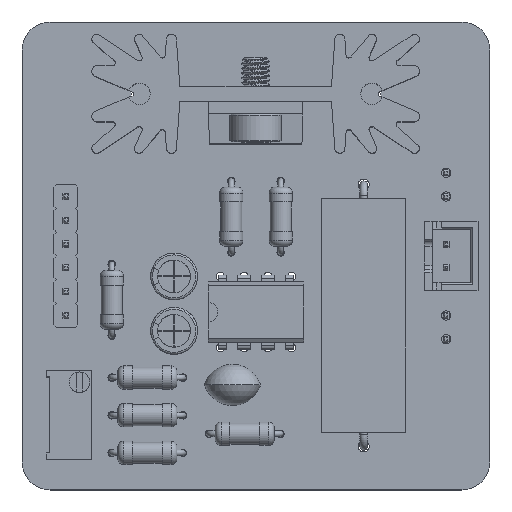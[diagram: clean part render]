
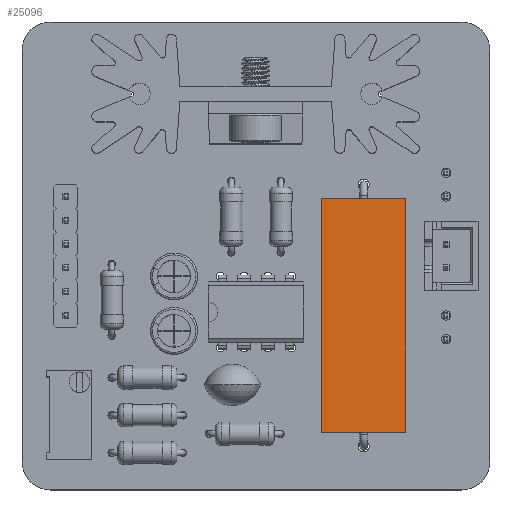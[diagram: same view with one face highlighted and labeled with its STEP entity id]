
A CAD part, top view. The second image highlights one B-rep face of the part: STEP entity #25096.
In plain terms, the highlighted planar face has unit normal (0, 0, 1).
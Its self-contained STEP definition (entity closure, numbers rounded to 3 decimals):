
#24982 = EDGE_CURVE('',#24983,#24985,#24987,.T.);
#24983 = VERTEX_POINT('',#24984);
#24984 = CARTESIAN_POINT('',(1.47,-4.5,9.));
#24985 = VERTEX_POINT('',#24986);
#24986 = CARTESIAN_POINT('',(26.47,-4.5,9.));
#24987 = LINE('',#24988,#24989);
#24988 = CARTESIAN_POINT('',(1.47,-4.5,9.));
#24989 = VECTOR('',#24990,1.);
#24990 = DIRECTION('',(1.,0.,0.));
#25015 = VERTEX_POINT('',#25016);
#25016 = CARTESIAN_POINT('',(26.47,4.5,9.));
#25022 = EDGE_CURVE('',#25023,#25015,#25025,.T.);
#25023 = VERTEX_POINT('',#25024);
#25024 = CARTESIAN_POINT('',(1.47,4.5,9.));
#25025 = LINE('',#25026,#25027);
#25026 = CARTESIAN_POINT('',(1.47,4.5,9.));
#25027 = VECTOR('',#25028,1.);
#25028 = DIRECTION('',(1.,0.,0.));
#25046 = EDGE_CURVE('',#25023,#24983,#25047,.T.);
#25047 = LINE('',#25048,#25049);
#25048 = CARTESIAN_POINT('',(1.47,4.5,9.));
#25049 = VECTOR('',#25050,1.);
#25050 = DIRECTION('',(0.,-1.,0.));
#25074 = EDGE_CURVE('',#25015,#24985,#25075,.T.);
#25075 = LINE('',#25076,#25077);
#25076 = CARTESIAN_POINT('',(26.47,4.5,9.));
#25077 = VECTOR('',#25078,1.);
#25078 = DIRECTION('',(0.,-1.,0.));
#25096 = ADVANCED_FACE('',(#25097),#25103,.F.);
#25097 = FACE_BOUND('',#25098,.F.);
#25098 = EDGE_LOOP('',(#25099,#25100,#25101,#25102));
#25099 = ORIENTED_EDGE('',*,*,#25022,.T.);
#25100 = ORIENTED_EDGE('',*,*,#25074,.T.);
#25101 = ORIENTED_EDGE('',*,*,#24982,.F.);
#25102 = ORIENTED_EDGE('',*,*,#25046,.F.);
#25103 = PLANE('',#25104);
#25104 = AXIS2_PLACEMENT_3D('',#25105,#25106,#25107);
#25105 = CARTESIAN_POINT('',(1.47,4.5,9.));
#25106 = DIRECTION('',(0.,0.,-1.));
#25107 = DIRECTION('',(0.,-1.,0.));
